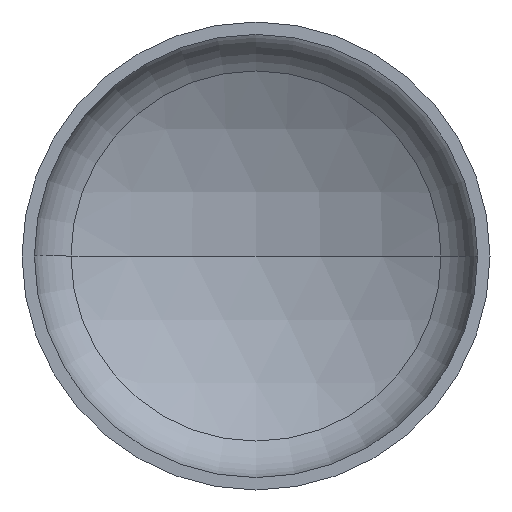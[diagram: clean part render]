
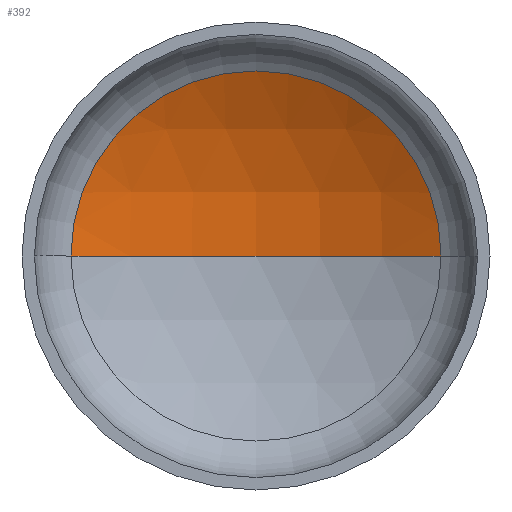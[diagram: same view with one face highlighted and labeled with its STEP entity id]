
A CAD part, front view. The second image highlights one B-rep face of the part: STEP entity #392.
In plain terms, the highlighted spherical face has radius 2720 mm.
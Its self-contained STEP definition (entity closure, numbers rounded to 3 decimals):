
#5 = CARTESIAN_POINT ( 'NONE',  ( 0., -1808.088, 0. ) ) ;
#13 = AXIS2_PLACEMENT_3D ( 'NONE', #178, #314, #102 ) ;
#14 = AXIS2_PLACEMENT_3D ( 'NONE', #251, #344, #204 ) ;
#17 = EDGE_LOOP ( 'NONE', ( #100, #124, #96 ) ) ;
#53 = VERTEX_POINT ( 'NONE', #271 ) ;
#96 = ORIENTED_EDGE ( 'NONE', *, *, #342, .T. ) ;
#100 = ORIENTED_EDGE ( 'NONE', *, *, #387, .F. ) ;
#102 = DIRECTION ( 'NONE',  ( -1., 0., 0. ) ) ;
#113 = VERTEX_POINT ( 'NONE', #213 ) ;
#124 = ORIENTED_EDGE ( 'NONE', *, *, #349, .T. ) ;
#131 = DIRECTION ( 'NONE',  ( 0., 0., -1. ) ) ;
#136 = DIRECTION ( 'NONE',  ( -1., 0., 0. ) ) ;
#156 = CIRCLE ( 'NONE', #267, 2720. ) ;
#178 = CARTESIAN_POINT ( 'NONE',  ( 0., -1808.088, 0. ) ) ;
#204 = DIRECTION ( 'NONE',  ( 1., 0., 0. ) ) ;
#213 = CARTESIAN_POINT ( 'NONE',  ( 0., 911.912, 0. ) ) ;
#233 = DIRECTION ( 'NONE',  ( 0., 0., 1. ) ) ;
#239 = CIRCLE ( 'NONE', #13, 2720. ) ;
#251 = CARTESIAN_POINT ( 'NONE',  ( 0., 556.376, 0. ) ) ;
#267 = AXIS2_PLACEMENT_3D ( 'NONE', #376, #233, #391 ) ;
#271 = CARTESIAN_POINT ( 'NONE',  ( -1344.51, 556.376, 0. ) ) ;
#297 = AXIS2_PLACEMENT_3D ( 'NONE', #5, #131, #136 ) ;
#314 = DIRECTION ( 'NONE',  ( 0., 0., -1. ) ) ;
#336 = CARTESIAN_POINT ( 'NONE',  ( 1344.51, 556.376, 0. ) ) ;
#342 = EDGE_CURVE ( 'NONE', #364, #53, #375, .T. ) ;
#344 = DIRECTION ( 'NONE',  ( 0., -1., 0. ) ) ;
#347 = FACE_OUTER_BOUND ( 'NONE', #17, .T. ) ;
#349 = EDGE_CURVE ( 'NONE', #113, #364, #239, .T. ) ;
#364 = VERTEX_POINT ( 'NONE', #336 ) ;
#375 = CIRCLE ( 'NONE', #14, 1344.51 ) ;
#376 = CARTESIAN_POINT ( 'NONE',  ( 0., -1808.088, 0. ) ) ;
#387 = EDGE_CURVE ( 'NONE', #113, #53, #156, .T. ) ;
#391 = DIRECTION ( 'NONE',  ( 1., 0., 0. ) ) ;
#392 = ADVANCED_FACE ( 'NONE', ( #347 ), #399, .F. ) ;
#399 = SPHERICAL_SURFACE ( 'NONE', #297, 2720. ) ;
